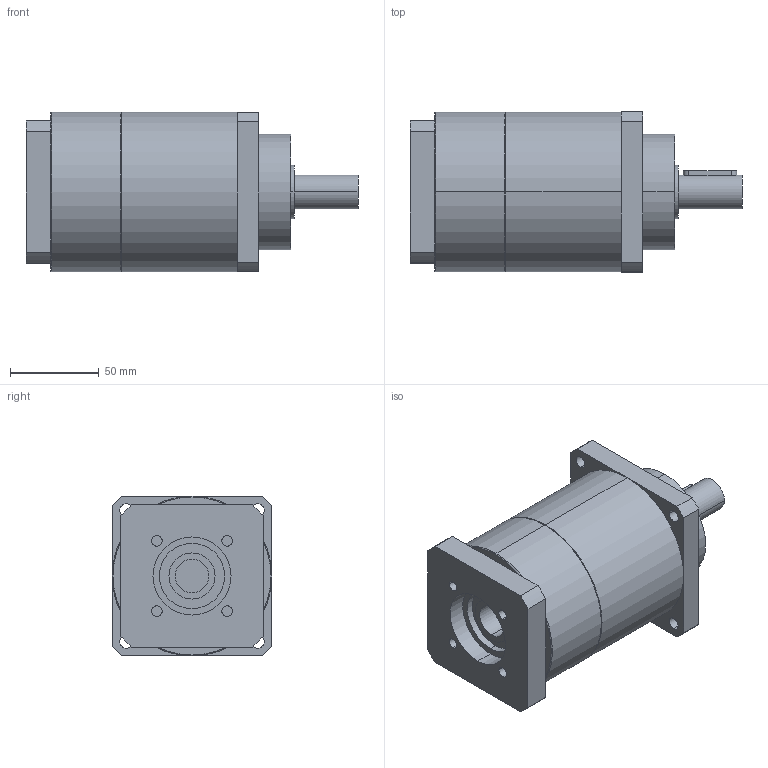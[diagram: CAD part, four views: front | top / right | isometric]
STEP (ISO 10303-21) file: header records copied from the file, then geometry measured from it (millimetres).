
FILE_DESCRIPTION(('CoCreate Modeling STEP Export'),'2;1');
FILE_NAME('GPT90_ig-9-12-16-20-25-28-35-40-50-70-100_19_B5T_19_P31.stp','2015-02-04T11:33:18',(''),(''),'CoCreate Modeling STEP processor for AP214 (Solid Model)','CoCreate Modeling 16.00C 25-Feb-2009 (C) Parametric Technology GmbH','');
FILE_SCHEMA(('AUTOMOTIVE_DESIGN { 1 0 10303 214 1 1 1 1 }'));
Length unit declared in the file: millimetre
Products named in the file (2): GPT90_ig-9-12-16-20-25-28-35-40-50-70-100_19_B5T_19_P31
Assembly tree (1 placements, depth 2):
  GPT90_ig-9-12-16-20-25-28-35-40-50-70-100_19_B5T_19_P31
    GPT90_ig-9-12-16-20-25-28-35-40-50-70-100_19_B5T_19_P31
Bounding box: 187 x 90 x 90 mm (x, y, z)
Volume: 893242.8 mm3; surface area: 68005.9 mm2
Topology: 1 solids, 1 shells, 88 faces, 221 edges, 148 vertices
Faces by surface type: cylinder 46, plane 38, cone 4
Entity records: 2699 total; most frequent: CARTESIAN_POINT 754, ORIENTED_EDGE 442, DIRECTION 330, EDGE_CURVE 221, VERTEX_POINT 148, AXIS2_PLACEMENT_3D 121, EDGE_LOOP 109, VECTOR 88
